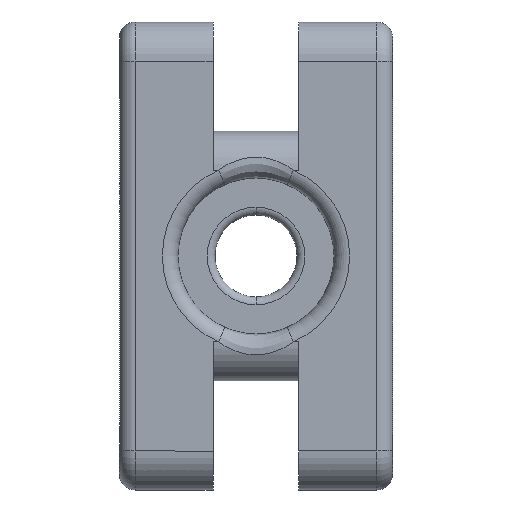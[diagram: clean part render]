
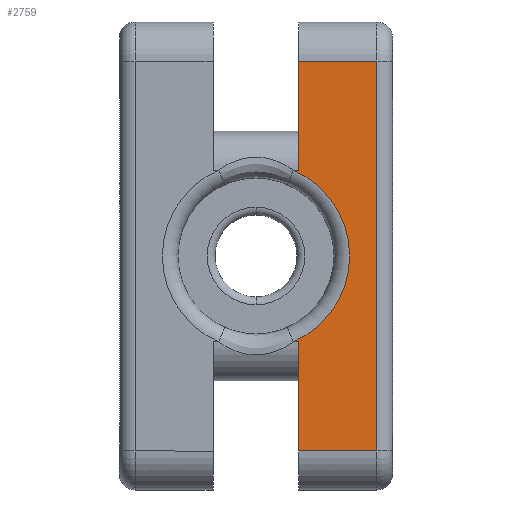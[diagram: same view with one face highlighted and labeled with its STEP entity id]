
A CAD part, front view. The second image highlights one B-rep face of the part: STEP entity #2759.
In plain terms, the highlighted planar face has unit normal (0, -1, 0).
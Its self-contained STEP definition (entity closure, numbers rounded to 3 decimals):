
#27 = EDGE_LOOP ( 'NONE', ( #894, #3024, #591, #1166, #1503, #585, #1659, #2339 ) ) ;
#62 = LINE ( 'NONE', #3084, #135 ) ;
#135 = VECTOR ( 'NONE', #1845, 1000. ) ;
#153 = DIRECTION ( 'NONE',  ( 1., 0., 0. ) ) ;
#161 = EDGE_CURVE ( 'NONE', #982, #2998, #2022, .T. ) ;
#222 = DIRECTION ( 'NONE',  ( -1., 0., 0. ) ) ;
#281 = CARTESIAN_POINT ( 'NONE',  ( 5.5, 0., -33.219 ) ) ;
#283 = DIRECTION ( 'NONE',  ( 0., 0., 1. ) ) ;
#295 = DIRECTION ( 'NONE',  ( 0., 1., 0. ) ) ;
#313 = CARTESIAN_POINT ( 'NONE',  ( 5.5, 0., 7.781 ) ) ;
#410 = CARTESIAN_POINT ( 'NONE',  ( 5.5, 0., 21.781 ) ) ;
#505 = DIRECTION ( 'NONE',  ( 0., 0., 1. ) ) ;
#510 = EDGE_CURVE ( 'NONE', #2626, #2998, #3174, .T. ) ;
#514 = VECTOR ( 'NONE', #2683, 1000. ) ;
#585 = ORIENTED_EDGE ( 'NONE', *, *, #2587, .T. ) ;
#591 = ORIENTED_EDGE ( 'NONE', *, *, #510, .T. ) ;
#750 = CARTESIAN_POINT ( 'NONE',  ( 15.5, 0., 0. ) ) ;
#765 = VECTOR ( 'NONE', #505, 1000. ) ;
#786 = DIRECTION ( 'NONE',  ( 0., 0., 1. ) ) ;
#848 = VECTOR ( 'NONE', #786, 1000. ) ;
#894 = ORIENTED_EDGE ( 'NONE', *, *, #1205, .T. ) ;
#907 = LINE ( 'NONE', #1605, #3136 ) ;
#982 = VERTEX_POINT ( 'NONE', #1502 ) ;
#1080 = AXIS2_PLACEMENT_3D ( 'NONE', #1529, #295, #1837 ) ;
#1105 = EDGE_CURVE ( 'NONE', #1310, #2304, #907, .T. ) ;
#1163 = LINE ( 'NONE', #750, #765 ) ;
#1166 = ORIENTED_EDGE ( 'NONE', *, *, #161, .F. ) ;
#1205 = EDGE_CURVE ( 'NONE', #1310, #2203, #1224, .T. ) ;
#1224 = LINE ( 'NONE', #1252, #2155 ) ;
#1252 = CARTESIAN_POINT ( 'NONE',  ( 0., 0., 7.781 ) ) ;
#1301 = PLANE ( 'NONE',  #1080 ) ;
#1310 = VERTEX_POINT ( 'NONE', #313 ) ;
#1330 = AXIS2_PLACEMENT_3D ( 'NONE', #1395, #2393, #283 ) ;
#1395 = CARTESIAN_POINT ( 'NONE',  ( 0., 0., -3.219 ) ) ;
#1443 = VERTEX_POINT ( 'NONE', #2657 ) ;
#1502 = CARTESIAN_POINT ( 'NONE',  ( 5.5, 0., -28.219 ) ) ;
#1503 = ORIENTED_EDGE ( 'NONE', *, *, #1547, .T. ) ;
#1529 = CARTESIAN_POINT ( 'NONE',  ( 0., 0., 0. ) ) ;
#1545 = VERTEX_POINT ( 'NONE', #3190 ) ;
#1547 = EDGE_CURVE ( 'NONE', #982, #1443, #1706, .T. ) ;
#1605 = CARTESIAN_POINT ( 'NONE',  ( 5.5, 0., 26.781 ) ) ;
#1659 = ORIENTED_EDGE ( 'NONE', *, *, #2109, .T. ) ;
#1706 = LINE ( 'NONE', #2975, #514 ) ;
#1837 = DIRECTION ( 'NONE',  ( 0., 0., 1. ) ) ;
#1845 = DIRECTION ( 'NONE',  ( -1., 0., 0. ) ) ;
#1933 = VECTOR ( 'NONE', #153, 1000. ) ;
#1950 = CARTESIAN_POINT ( 'NONE',  ( 5.5, 0., -14.219 ) ) ;
#2022 = LINE ( 'NONE', #281, #848 ) ;
#2109 = EDGE_CURVE ( 'NONE', #1545, #2304, #62, .T. ) ;
#2126 = CARTESIAN_POINT ( 'NONE',  ( 4.796, 0., 7.781 ) ) ;
#2155 = VECTOR ( 'NONE', #222, 1000. ) ;
#2203 = VERTEX_POINT ( 'NONE', #2126 ) ;
#2280 = CARTESIAN_POINT ( 'NONE',  ( 4.796, 0., -14.219 ) ) ;
#2304 = VERTEX_POINT ( 'NONE', #410 ) ;
#2339 = ORIENTED_EDGE ( 'NONE', *, *, #1105, .F. ) ;
#2341 = DIRECTION ( 'NONE',  ( 0., 0., 1. ) ) ;
#2343 = EDGE_CURVE ( 'NONE', #2203, #2626, #3148, .T. ) ;
#2393 = DIRECTION ( 'NONE',  ( 0., 1., 0. ) ) ;
#2587 = EDGE_CURVE ( 'NONE', #1443, #1545, #1163, .T. ) ;
#2626 = VERTEX_POINT ( 'NONE', #2280 ) ;
#2657 = CARTESIAN_POINT ( 'NONE',  ( 15.5, 0., -28.219 ) ) ;
#2683 = DIRECTION ( 'NONE',  ( 1., 0., 0. ) ) ;
#2759 = ADVANCED_FACE ( 'NONE', ( #2767 ), #1301, .F. ) ;
#2767 = FACE_OUTER_BOUND ( 'NONE', #27, .T. ) ;
#2944 = CARTESIAN_POINT ( 'NONE',  ( 0., 0., -14.219 ) ) ;
#2975 = CARTESIAN_POINT ( 'NONE',  ( 0., 0., -28.219 ) ) ;
#2998 = VERTEX_POINT ( 'NONE', #1950 ) ;
#3024 = ORIENTED_EDGE ( 'NONE', *, *, #2343, .T. ) ;
#3084 = CARTESIAN_POINT ( 'NONE',  ( 0., 0., 21.781 ) ) ;
#3136 = VECTOR ( 'NONE', #2341, 1000. ) ;
#3148 = CIRCLE ( 'NONE', #1330, 12. ) ;
#3174 = LINE ( 'NONE', #2944, #1933 ) ;
#3190 = CARTESIAN_POINT ( 'NONE',  ( 15.5, 0., 21.781 ) ) ;
